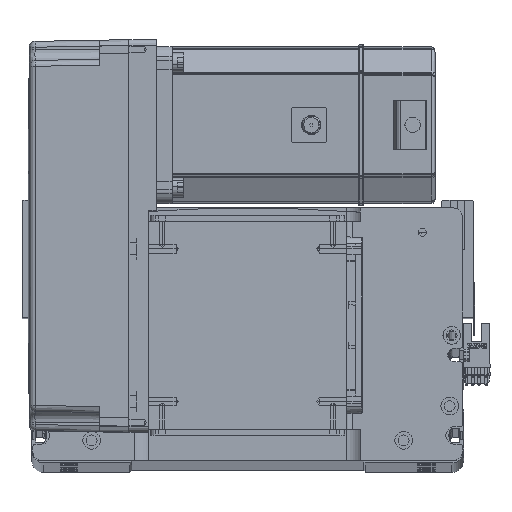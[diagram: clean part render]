
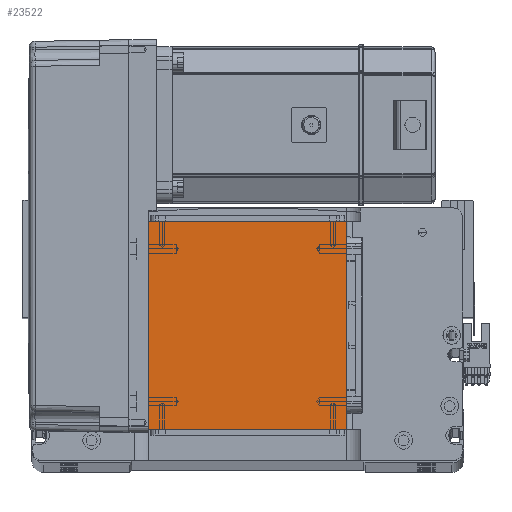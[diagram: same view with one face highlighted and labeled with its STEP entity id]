
A CAD part, top view. The second image highlights one B-rep face of the part: STEP entity #23522.
In plain terms, the highlighted planar face has unit normal (0, 0, 1).
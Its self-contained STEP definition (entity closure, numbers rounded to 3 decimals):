
#950 = VECTOR ( 'NONE', #23442, 1000. ) ;
#1088 = EDGE_LOOP ( 'NONE', ( #22948, #17916, #23456, #41479 ) ) ;
#2602 = CARTESIAN_POINT ( 'NONE',  ( -50.5, 16., 115. ) ) ;
#2973 = EDGE_CURVE ( 'NONE', #51203, #26992, #23423, .T. ) ;
#4526 = FACE_OUTER_BOUND ( 'NONE', #1088, .T. ) ;
#8043 = CARTESIAN_POINT ( 'NONE',  ( 50.5, 122., 115. ) ) ;
#9434 = VECTOR ( 'NONE', #26892, 1000. ) ;
#14907 = VERTEX_POINT ( 'NONE', #32985 ) ;
#15502 = EDGE_CURVE ( 'NONE', #14907, #51203, #54247, .T. ) ;
#15786 = PLANE ( 'NONE',  #19412 ) ;
#17187 = CARTESIAN_POINT ( 'NONE',  ( 50.5, 122., 115. ) ) ;
#17916 = ORIENTED_EDGE ( 'NONE', *, *, #21463, .T. ) ;
#18763 = EDGE_CURVE ( 'NONE', #26992, #44813, #36381, .T. ) ;
#19412 = AXIS2_PLACEMENT_3D ( 'NONE', #40864, #46848, #37723 ) ;
#21463 = EDGE_CURVE ( 'NONE', #44813, #14907, #31207, .T. ) ;
#22948 = ORIENTED_EDGE ( 'NONE', *, *, #18763, .T. ) ;
#23423 = LINE ( 'NONE', #53475, #9434 ) ;
#23442 = DIRECTION ( 'NONE',  ( 0., -1., 0. ) ) ;
#23456 = ORIENTED_EDGE ( 'NONE', *, *, #15502, .T. ) ;
#23522 = ADVANCED_FACE ( 'NONE', ( #4526 ), #15786, .T. ) ;
#26892 = DIRECTION ( 'NONE',  ( -1., 0., 0. ) ) ;
#26992 = VERTEX_POINT ( 'NONE', #47544 ) ;
#27100 = DIRECTION ( 'NONE',  ( 1., 0., 0. ) ) ;
#30557 = DIRECTION ( 'NONE',  ( 0., 1., 0. ) ) ;
#30646 = VECTOR ( 'NONE', #30557, 1000. ) ;
#31207 = LINE ( 'NONE', #45149, #43744 ) ;
#32985 = CARTESIAN_POINT ( 'NONE',  ( 50.5, 16., 115. ) ) ;
#36381 = LINE ( 'NONE', #49989, #950 ) ;
#37723 = DIRECTION ( 'NONE',  ( 1., 0., 0. ) ) ;
#40864 = CARTESIAN_POINT ( 'NONE',  ( 0., 0., 115. ) ) ;
#41479 = ORIENTED_EDGE ( 'NONE', *, *, #2973, .T. ) ;
#43744 = VECTOR ( 'NONE', #27100, 1000. ) ;
#44813 = VERTEX_POINT ( 'NONE', #2602 ) ;
#45149 = CARTESIAN_POINT ( 'NONE',  ( -50.5, 16., 115. ) ) ;
#46848 = DIRECTION ( 'NONE',  ( 0., 0., 1. ) ) ;
#47544 = CARTESIAN_POINT ( 'NONE',  ( -50.5, 122., 115. ) ) ;
#49989 = CARTESIAN_POINT ( 'NONE',  ( -50.5, 122., 115. ) ) ;
#51203 = VERTEX_POINT ( 'NONE', #8043 ) ;
#53475 = CARTESIAN_POINT ( 'NONE',  ( -50.5, 122., 115. ) ) ;
#54247 = LINE ( 'NONE', #17187, #30646 ) ;
